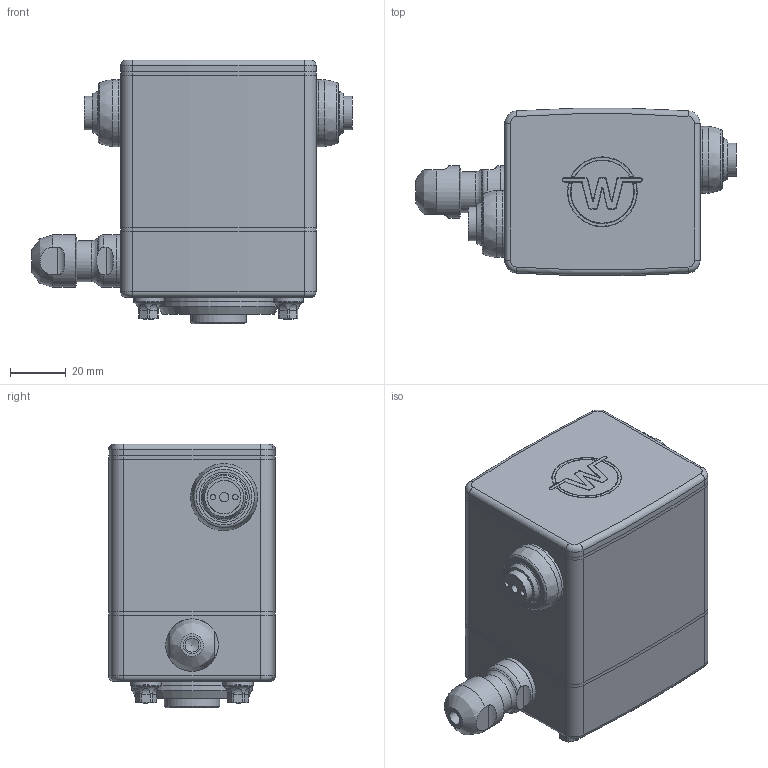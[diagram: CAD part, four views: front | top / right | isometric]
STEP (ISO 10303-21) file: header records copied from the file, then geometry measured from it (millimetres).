
FILE_DESCRIPTION(/* description */ ('STERIGRIP 40-024 Smart Aseptic Servo-Gripper'),/* implementation_level */ '2;1');
FILE_NAME(/* name */ 'STERIGRIP_40-024_Customer.stp',/* time_stamp */ '2023-03-14T18:57:16+01:00',/* author */ ('Weiss Robotics'),/* organization */ ('Weiss Robotics'),/* preprocessor_version */ '',/* originating_system */ '',/* authorisation */ '');
FILE_SCHEMA (('AUTOMOTIVE_DESIGN { 1 0 10303 214 3 1 1 }'));
Length unit declared in the file: millimetre
Products named in the file (6): STERIGRIP_40-024_Customer; Grundkoerper; Stangenführung; Fingerdichtung; SKINTOP Hygienic M12x1,5 Art.-Nr. 531051005; K1492.04X16
Assembly tree (10 placements, depth 2):
  STERIGRIP_40-024_Customer
    Grundkoerper
    Stangenführung  x2
    Fingerdichtung  x2
    SKINTOP Hygienic M12x1,5 Art.-Nr. 531051005
    K1492.04X16  x4
Bounding box: 114.9 x 59.78 x 94.5 mm (x, y, z)
Volume: 372226.3 mm3; surface area: 72135.5 mm2
Topology: 26 solids, 26 shells, 492 faces, 1358 edges, 952 vertices
Faces by surface type: cylinder 176, plane 175, bspline 90, torus 33, cone 14, sphere 4
Full cylindrical faces by diameter (mm): 2 x4, 3.242 x2, 4 x8, 4.2 x4, 5 x2, 5.5 x4, 6.2 x1, 7.6 x1, 8.5 x1, 10 x1, 10.8 x4, 12 x10, 14.7 x1, 16 x1, 18 x4, 18.76 x1, 18.8 x2, 20 x6, 23.6 x1, 24 x4, 39.4 x2, 43 x2
Entity records: 13708 total; most frequent: CARTESIAN_POINT 4071, ORIENTED_EDGE 2038, DIRECTION 1771, EDGE_CURVE 1019, VERTEX_POINT 705, AXIS2_PLACEMENT_3D 674, EDGE_LOOP 434, LINE 423
